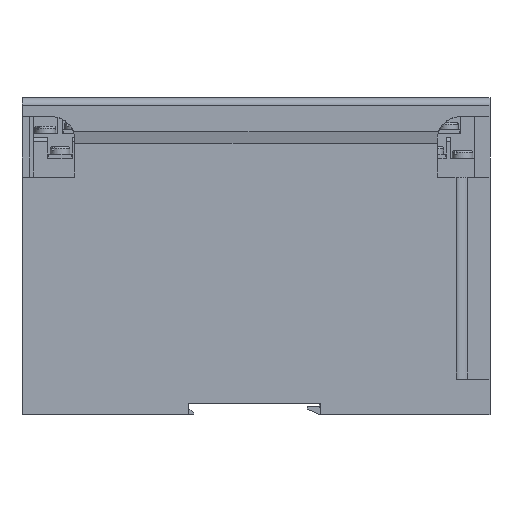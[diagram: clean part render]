
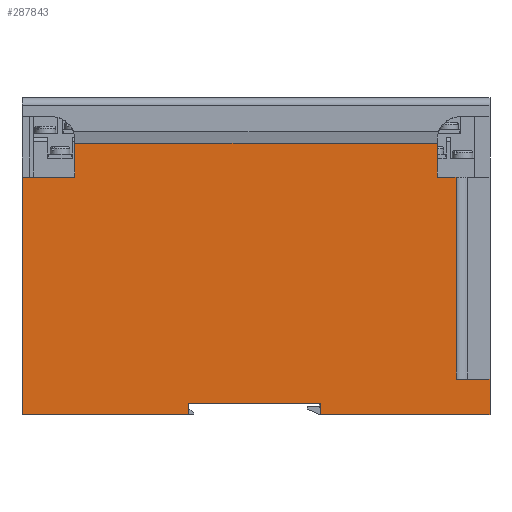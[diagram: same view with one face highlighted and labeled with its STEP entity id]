
A CAD part, left-side view. The second image highlights one B-rep face of the part: STEP entity #287843.
In plain terms, the highlighted planar face has unit normal (-1, 0, 0).
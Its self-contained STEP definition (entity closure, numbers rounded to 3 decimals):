
#1276 = VERTEX_POINT ( 'NONE', #94904 ) ;
#3431 = LINE ( 'NONE', #21002, #335024 ) ;
#10736 = VECTOR ( 'NONE', #297030, 1000. ) ;
#14987 = ORIENTED_EDGE ( 'NONE', *, *, #38261, .T. ) ;
#16006 = LINE ( 'NONE', #363006, #10736 ) ;
#16163 = CARTESIAN_POINT ( 'NONE',  ( -52.5, 110., 72. ) ) ;
#16545 = PLANE ( 'NONE',  #148874 ) ;
#19050 = DIRECTION ( 'NONE',  ( 0., 0., -1. ) ) ;
#21002 = CARTESIAN_POINT ( 'NONE',  ( -52.5, 45., 3. ) ) ;
#30981 = CARTESIAN_POINT ( 'NONE',  ( -52.5, 0., 0. ) ) ;
#31187 = ORIENTED_EDGE ( 'NONE', *, *, #236915, .T. ) ;
#32035 = CARTESIAN_POINT ( 'NONE',  ( -52.5, 124., 63. ) ) ;
#35973 = LINE ( 'NONE', #251664, #307081 ) ;
#37397 = CARTESIAN_POINT ( 'NONE',  ( -52.5, 45., 3. ) ) ;
#37827 = CARTESIAN_POINT ( 'NONE',  ( -52.5, 0., 63. ) ) ;
#38261 = EDGE_CURVE ( 'NONE', #42402, #59000, #216997, .T. ) ;
#38331 = EDGE_CURVE ( 'NONE', #178610, #187112, #16006, .T. ) ;
#38576 = CARTESIAN_POINT ( 'NONE',  ( -52.5, 0., 0. ) ) ;
#42402 = VERTEX_POINT ( 'NONE', #192912 ) ;
#44837 = VECTOR ( 'NONE', #377037, 1000. ) ;
#49344 = VERTEX_POINT ( 'NONE', #37397 ) ;
#51597 = DIRECTION ( 'NONE',  ( 0., 0., -1. ) ) ;
#54184 = ORIENTED_EDGE ( 'NONE', *, *, #318424, .F. ) ;
#57886 = ORIENTED_EDGE ( 'NONE', *, *, #322754, .T. ) ;
#59000 = VERTEX_POINT ( 'NONE', #273115 ) ;
#61516 = VECTOR ( 'NONE', #154419, 1000. ) ;
#62171 = ORIENTED_EDGE ( 'NONE', *, *, #328045, .F. ) ;
#62669 = VERTEX_POINT ( 'NONE', #354908 ) ;
#65751 = CARTESIAN_POINT ( 'NONE',  ( -52.5, 14., 72. ) ) ;
#80721 = DIRECTION ( 'NONE',  ( 0., 0., -1. ) ) ;
#80923 = VECTOR ( 'NONE', #395109, 1000. ) ;
#81741 = VECTOR ( 'NONE', #130837, 1000. ) ;
#84797 = VECTOR ( 'NONE', #100958, 1000. ) ;
#86437 = CARTESIAN_POINT ( 'NONE',  ( -52.5, 124., 84. ) ) ;
#88956 = CARTESIAN_POINT ( 'NONE',  ( -52.5, 110., 72. ) ) ;
#89955 = VERTEX_POINT ( 'NONE', #218929 ) ;
#93568 = VECTOR ( 'NONE', #297941, 1000. ) ;
#94904 = CARTESIAN_POINT ( 'NONE',  ( -52.5, 0., 9.5 ) ) ;
#100958 = DIRECTION ( 'NONE',  ( 0., 1., 0. ) ) ;
#105880 = LINE ( 'NONE', #38576, #80923 ) ;
#113443 = CARTESIAN_POINT ( 'NONE',  ( -52.5, 110., 63. ) ) ;
#115304 = EDGE_CURVE ( 'NONE', #266053, #168242, #139914, .T. ) ;
#116255 = EDGE_CURVE ( 'NONE', #89955, #226207, #158084, .T. ) ;
#119374 = CARTESIAN_POINT ( 'NONE',  ( -52.5, 80., 0. ) ) ;
#126280 = CARTESIAN_POINT ( 'NONE',  ( -52.5, 80., 3. ) ) ;
#126776 = LINE ( 'NONE', #255828, #81741 ) ;
#130837 = DIRECTION ( 'NONE',  ( 0., -1., 0. ) ) ;
#138473 = EDGE_CURVE ( 'NONE', #226207, #187112, #35973, .T. ) ;
#139914 = LINE ( 'NONE', #37827, #84797 ) ;
#148874 = AXIS2_PLACEMENT_3D ( 'NONE', #335231, #179234, #51597 ) ;
#148955 = EDGE_CURVE ( 'NONE', #62669, #178610, #172633, .T. ) ;
#153521 = VERTEX_POINT ( 'NONE', #409117 ) ;
#154419 = DIRECTION ( 'NONE',  ( 0., -1., 0. ) ) ;
#157904 = LINE ( 'NONE', #399396, #268395 ) ;
#158084 = LINE ( 'NONE', #88956, #328997 ) ;
#159815 = DIRECTION ( 'NONE',  ( 0., 0., 1. ) ) ;
#168242 = VERTEX_POINT ( 'NONE', #32035 ) ;
#172633 = LINE ( 'NONE', #194934, #247999 ) ;
#173165 = EDGE_CURVE ( 'NONE', #62669, #1276, #126776, .T. ) ;
#173860 = FACE_OUTER_BOUND ( 'NONE', #191876, .T. ) ;
#178610 = VERTEX_POINT ( 'NONE', #187997 ) ;
#179234 = DIRECTION ( 'NONE',  ( 1., 0., 0. ) ) ;
#185022 = DIRECTION ( 'NONE',  ( 0., 0., -1. ) ) ;
#187112 = VERTEX_POINT ( 'NONE', #233187 ) ;
#187783 = ORIENTED_EDGE ( 'NONE', *, *, #116255, .F. ) ;
#187997 = CARTESIAN_POINT ( 'NONE',  ( -52.5, 9., 63. ) ) ;
#189506 = EDGE_CURVE ( 'NONE', #168242, #153521, #371565, .T. ) ;
#191876 = EDGE_LOOP ( 'NONE', ( #57886, #293242, #62171, #302751, #14987, #54184, #365447, #290875, #243962, #337343, #187783, #31187, #389692, #327047 ) ) ;
#192912 = CARTESIAN_POINT ( 'NONE',  ( -52.5, 45., 0. ) ) ;
#194934 = CARTESIAN_POINT ( 'NONE',  ( -52.5, 9., 9.5 ) ) ;
#209363 = EDGE_CURVE ( 'NONE', #49344, #42402, #3431, .T. ) ;
#215505 = VECTOR ( 'NONE', #80721, 1000. ) ;
#216997 = LINE ( 'NONE', #30981, #61516 ) ;
#218929 = CARTESIAN_POINT ( 'NONE',  ( -52.5, 110., 72. ) ) ;
#226207 = VERTEX_POINT ( 'NONE', #65751 ) ;
#233187 = CARTESIAN_POINT ( 'NONE',  ( -52.5, 14., 63. ) ) ;
#236504 = DIRECTION ( 'NONE',  ( 0., 0., -1. ) ) ;
#236915 = EDGE_CURVE ( 'NONE', #89955, #266053, #286014, .T. ) ;
#243962 = ORIENTED_EDGE ( 'NONE', *, *, #38331, .T. ) ;
#247999 = VECTOR ( 'NONE', #159815, 1000. ) ;
#251664 = CARTESIAN_POINT ( 'NONE',  ( -52.5, 14., 72. ) ) ;
#255828 = CARTESIAN_POINT ( 'NONE',  ( -52.5, 0., 9.5 ) ) ;
#256325 = VERTEX_POINT ( 'NONE', #126280 ) ;
#265632 = CARTESIAN_POINT ( 'NONE',  ( -52.5, 80., 3. ) ) ;
#266053 = VERTEX_POINT ( 'NONE', #113443 ) ;
#268395 = VECTOR ( 'NONE', #236504, 1000. ) ;
#273115 = CARTESIAN_POINT ( 'NONE',  ( -52.5, 0., 0. ) ) ;
#275916 = CARTESIAN_POINT ( 'NONE',  ( -52.5, 80., 3. ) ) ;
#286014 = LINE ( 'NONE', #16163, #215505 ) ;
#287843 = ADVANCED_FACE ( 'NONE', ( #173860 ), #16545, .F. ) ;
#290875 = ORIENTED_EDGE ( 'NONE', *, *, #148955, .T. ) ;
#293242 = ORIENTED_EDGE ( 'NONE', *, *, #395178, .F. ) ;
#297030 = DIRECTION ( 'NONE',  ( 0., 1., 0. ) ) ;
#297941 = DIRECTION ( 'NONE',  ( 0., 1., 0. ) ) ;
#302751 = ORIENTED_EDGE ( 'NONE', *, *, #209363, .T. ) ;
#307081 = VECTOR ( 'NONE', #345806, 1000. ) ;
#318424 = EDGE_CURVE ( 'NONE', #1276, #59000, #157904, .T. ) ;
#319583 = LINE ( 'NONE', #265632, #93568 ) ;
#322754 = EDGE_CURVE ( 'NONE', #153521, #344389, #105880, .T. ) ;
#327047 = ORIENTED_EDGE ( 'NONE', *, *, #189506, .T. ) ;
#328045 = EDGE_CURVE ( 'NONE', #49344, #256325, #319583, .T. ) ;
#328997 = VECTOR ( 'NONE', #372650, 1000. ) ;
#335024 = VECTOR ( 'NONE', #185022, 1000. ) ;
#335231 = CARTESIAN_POINT ( 'NONE',  ( -52.5, 0., 84. ) ) ;
#337343 = ORIENTED_EDGE ( 'NONE', *, *, #138473, .F. ) ;
#344389 = VERTEX_POINT ( 'NONE', #119374 ) ;
#345806 = DIRECTION ( 'NONE',  ( 0., 0., -1. ) ) ;
#354908 = CARTESIAN_POINT ( 'NONE',  ( -52.5, 9., 9.5 ) ) ;
#363006 = CARTESIAN_POINT ( 'NONE',  ( -52.5, 0., 63. ) ) ;
#365447 = ORIENTED_EDGE ( 'NONE', *, *, #173165, .F. ) ;
#368601 = VECTOR ( 'NONE', #19050, 1000. ) ;
#371565 = LINE ( 'NONE', #86437, #44837 ) ;
#372650 = DIRECTION ( 'NONE',  ( 0., -1., 0. ) ) ;
#377037 = DIRECTION ( 'NONE',  ( 0., 0., -1. ) ) ;
#378763 = LINE ( 'NONE', #275916, #368601 ) ;
#389692 = ORIENTED_EDGE ( 'NONE', *, *, #115304, .T. ) ;
#395109 = DIRECTION ( 'NONE',  ( 0., -1., 0. ) ) ;
#395178 = EDGE_CURVE ( 'NONE', #256325, #344389, #378763, .T. ) ;
#399396 = CARTESIAN_POINT ( 'NONE',  ( -52.5, 0., 84. ) ) ;
#409117 = CARTESIAN_POINT ( 'NONE',  ( -52.5, 124., 0. ) ) ;
